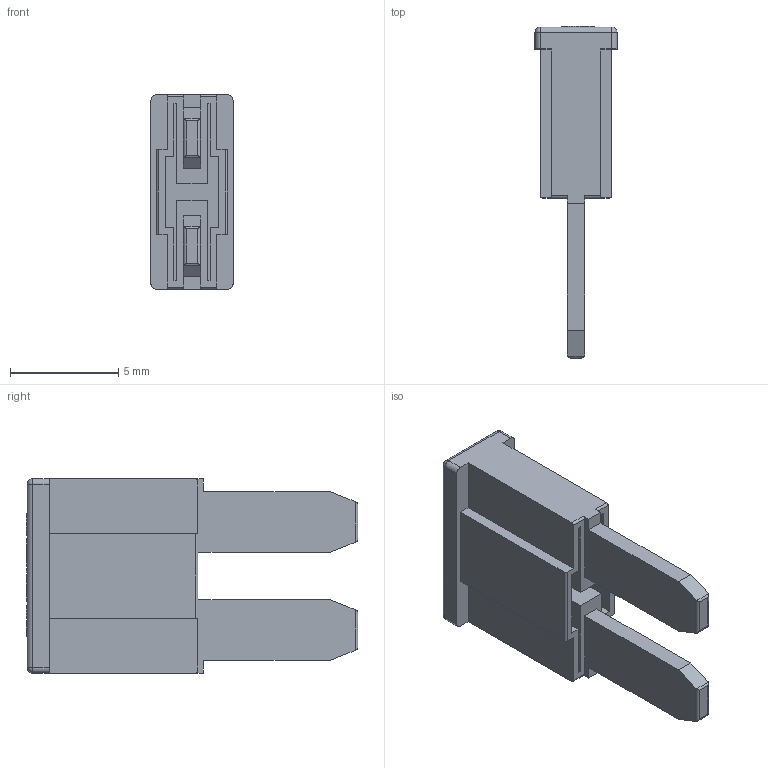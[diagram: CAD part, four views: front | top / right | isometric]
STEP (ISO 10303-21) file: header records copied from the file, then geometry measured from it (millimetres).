
FILE_DESCRIPTION(/* description */ (''),/* implementation_level */ '2;1');
FILE_NAME(/* name */ 'C:\Users\Hani\Desktop\work\ANT-UL\ANT-UL.stp',/* time_stamp */ '2021-10-15T13:25:35-07:00',/* author */ ('Hani'),/* organization */ (''),/* preprocessor_version */ 'ST-DEVELOPER v17',/* originating_system */ 'Autodesk Inventor 2019',/* authorisation */ '');
FILE_SCHEMA (('AUTOMOTIVE_DESIGN { 1 0 10303 214 3 1 1 }'));
Length unit declared in the file: inch
Products named in the file (1): ANT-UL
Bounding box: 3.8 x 15.35 x 9 mm (x, y, z)
Volume: 197 mm3; surface area: 594.1 mm2
Topology: 1 solids, 1 shells, 217 faces, 594 edges, 392 vertices
Faces by surface type: plane 124, bspline 67, cylinder 22, sphere 4
Entity records: 7422 total; most frequent: CARTESIAN_POINT 2282, ORIENTED_EDGE 1188, DIRECTION 806, EDGE_CURVE 594, LINE 416, VECTOR 416, VERTEX_POINT 392, EDGE_LOOP 230
